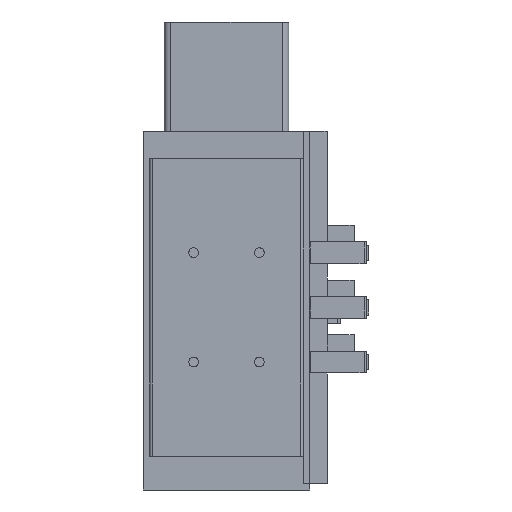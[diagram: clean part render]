
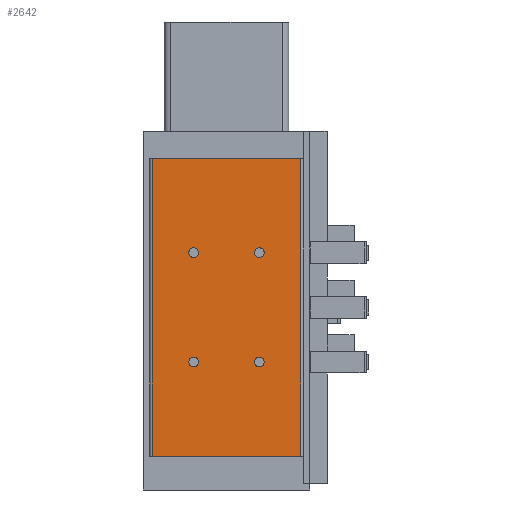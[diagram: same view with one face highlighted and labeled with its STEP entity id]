
A CAD part, front view. The second image highlights one B-rep face of the part: STEP entity #2642.
In plain terms, the highlighted planar face has unit normal (0, -1, 0).
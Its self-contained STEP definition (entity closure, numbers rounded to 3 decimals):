
#2034=CARTESIAN_POINT('',(34.0,-0.5,-136.0));
#2035=VERTEX_POINT('',#2034);
#2043=CARTESIAN_POINT('',(-34.0,-0.5,-136.0));
#2044=VERTEX_POINT('',#2043);
#2045=CARTESIAN_POINT('',(-34.0,-0.5,-136.0));
#2046=DIRECTION('',(1.0,0.0,0.0));
#2047=VECTOR('',#2046,68.0);
#2048=LINE('',#2045,#2047);
#2049=EDGE_CURVE('',#2044,#2035,#2048,.T.);
#2256=CARTESIAN_POINT('',(-34.0,-0.5,0.0));
#2257=VERTEX_POINT('',#2256);
#2265=CARTESIAN_POINT('',(34.0,-0.5,0.0));
#2266=VERTEX_POINT('',#2265);
#2267=CARTESIAN_POINT('',(-34.0,-0.5,0.0));
#2268=DIRECTION('',(1.0,0.0,0.0));
#2269=VECTOR('',#2268,68.0);
#2270=LINE('',#2267,#2269);
#2271=EDGE_CURVE('',#2257,#2266,#2270,.T.);
#2336=CARTESIAN_POINT('',(12.75,-0.5,-93.0));
#2337=VERTEX_POINT('',#2336);
#2338=CARTESIAN_POINT('',(15.,-0.5,-93.0));
#2339=DIRECTION('',(0.0,1.0,0.0));
#2340=DIRECTION('',(1.0,0.0,0.0));
#2341=AXIS2_PLACEMENT_3D('',#2338,#2339,#2340);
#2342=CIRCLE('',#2341,2.25);
#2343=EDGE_CURVE('',#2337,#2337,#2342,.T.);
#2404=CARTESIAN_POINT('',(12.75,-0.5,-43.));
#2405=VERTEX_POINT('',#2404);
#2406=CARTESIAN_POINT('',(15.,-0.5,-43.));
#2407=DIRECTION('',(0.0,1.0,0.0));
#2408=DIRECTION('',(1.0,0.0,0.0));
#2409=AXIS2_PLACEMENT_3D('',#2406,#2407,#2408);
#2410=CIRCLE('',#2409,2.25);
#2411=EDGE_CURVE('',#2405,#2405,#2410,.T.);
#2472=CARTESIAN_POINT('',(-17.25,-0.5,-43.));
#2473=VERTEX_POINT('',#2472);
#2474=CARTESIAN_POINT('',(-15.,-0.5,-43.));
#2475=DIRECTION('',(0.0,1.0,0.0));
#2476=DIRECTION('',(1.0,0.0,0.0));
#2477=AXIS2_PLACEMENT_3D('',#2474,#2475,#2476);
#2478=CIRCLE('',#2477,2.25);
#2479=EDGE_CURVE('',#2473,#2473,#2478,.T.);
#2540=CARTESIAN_POINT('',(-17.25,-0.5,-93.0));
#2541=VERTEX_POINT('',#2540);
#2542=CARTESIAN_POINT('',(-15.,-0.5,-93.0));
#2543=DIRECTION('',(0.0,1.0,0.0));
#2544=DIRECTION('',(1.0,0.0,0.0));
#2545=AXIS2_PLACEMENT_3D('',#2542,#2543,#2544);
#2546=CIRCLE('',#2545,2.25);
#2547=EDGE_CURVE('',#2541,#2541,#2546,.T.);
#2565=CARTESIAN_POINT('',(34.0,-0.5,0.0));
#2566=DIRECTION('',(0.0,0.0,-1.0));
#2567=VECTOR('',#2566,136.0);
#2568=LINE('',#2565,#2567);
#2569=EDGE_CURVE('',#2266,#2035,#2568,.T.);
#2595=CARTESIAN_POINT('',(-34.0,-0.5,-136.0));
#2596=DIRECTION('',(0.0,0.0,1.0));
#2597=VECTOR('',#2596,136.0);
#2598=LINE('',#2595,#2597);
#2599=EDGE_CURVE('',#2044,#2257,#2598,.T.);
#2619=CARTESIAN_POINT('',(-35.0,-0.5,0.0));
#2620=DIRECTION('',(0.0,-1.0,0.0));
#2621=DIRECTION('',(0.0,0.0,-1.0));
#2622=AXIS2_PLACEMENT_3D('',#2619,#2620,#2621);
#2623=PLANE('',#2622);
#2624=ORIENTED_EDGE('',*,*,#2569,.F.);
#2625=ORIENTED_EDGE('',*,*,#2271,.F.);
#2626=ORIENTED_EDGE('',*,*,#2599,.F.);
#2627=ORIENTED_EDGE('',*,*,#2049,.T.);
#2628=EDGE_LOOP('',(#2624,#2625,#2626,#2627));
#2629=FACE_OUTER_BOUND('',#2628,.T.);
#2630=ORIENTED_EDGE('',*,*,#2343,.T.);
#2631=EDGE_LOOP('',(#2630));
#2632=FACE_BOUND('',#2631,.T.);
#2633=ORIENTED_EDGE('',*,*,#2411,.T.);
#2634=EDGE_LOOP('',(#2633));
#2635=FACE_BOUND('',#2634,.T.);
#2636=ORIENTED_EDGE('',*,*,#2479,.T.);
#2637=EDGE_LOOP('',(#2636));
#2638=FACE_BOUND('',#2637,.T.);
#2639=ORIENTED_EDGE('',*,*,#2547,.T.);
#2640=EDGE_LOOP('',(#2639));
#2641=FACE_BOUND('',#2640,.T.);
#2642=ADVANCED_FACE('',(#2629,#2632,#2635,#2638,#2641),#2623,.T.);
